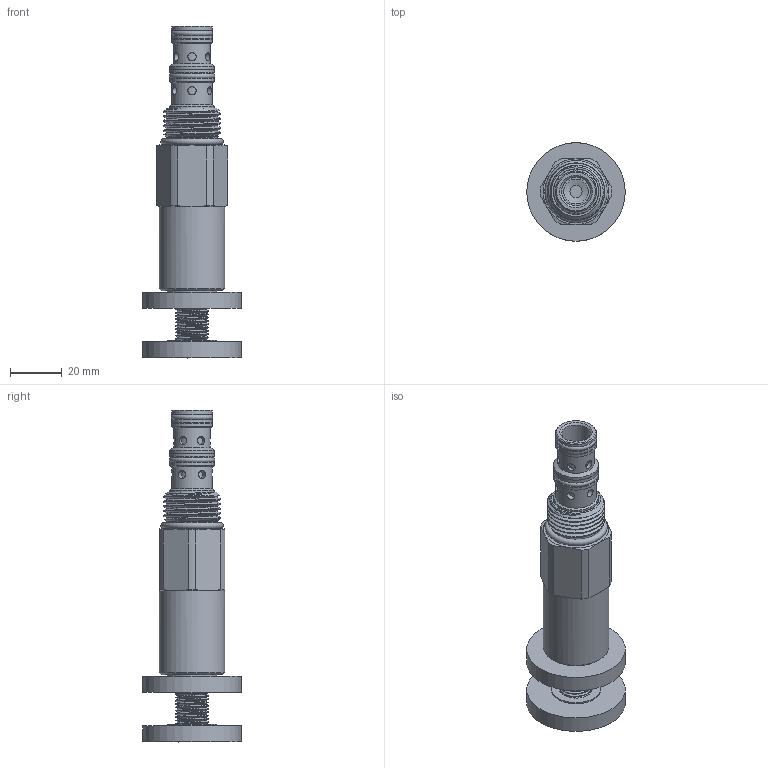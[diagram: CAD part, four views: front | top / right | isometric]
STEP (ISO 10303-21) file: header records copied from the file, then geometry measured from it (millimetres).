
FILE_DESCRIPTION(/* description */ ('DF-FCQ-0K-2-05'),/* implementation_level */ '2;1');
FILE_NAME(/* name */ 'R:\Solids\Valve Solids exterior\Solids (.STEP)\DFFCQ0K-3D Full.stp',/* time_stamp */ '2023-11-13T14:07:56-06:00',/* author */ ('jared'),/* organization */ (''),/* preprocessor_version */ 'ST-DEVELOPER v17',/* originating_system */ 'Autodesk Inventor 2019',/* authorisation */ '');
FILE_SCHEMA (('AUTOMOTIVE_DESIGN { 1 0 10303 214 3 1 1 }'));
Length unit declared in the file: inch
Products named in the file (1): 85002444
Bounding box: 38.1 x 38.1 x 128.37 mm (x, y, z)
Volume: 55346.6 mm3; surface area: 17230.2 mm2
Topology: 1 solids, 3 shells, 222 faces, 605 edges, 416 vertices
Faces by surface type: cylinder 94, plane 59, bspline 34, cone 28, torus 7
Full cylindrical faces by diameter (mm): 3.175 x12, 3.683 x2, 6.35 x1, 11.09 x1, 11.11 x2, 11.328 x1, 12.7 x9, 12.992 x3, 14.224 x1, 14.592 x3, 15.684 x1, 15.748 x1, 15.773 x2, 17.285 x1, 17.323 x1, 17.374 x2, 19.05 x2, 19.621 x2, 22.225 x4, 25.4 x1, 38.1 x2
Entity records: 19493 total; most frequent: CARTESIAN_POINT 14093, ORIENTED_EDGE 1204, DIRECTION 874, EDGE_CURVE 602, VERTEX_POINT 415, AXIS2_PLACEMENT_3D 376, B_SPLINE_CURVE_WITH_KNOTS 264, EDGE_LOOP 261
